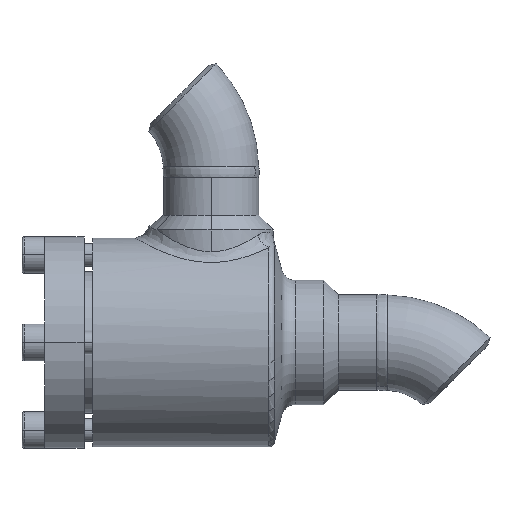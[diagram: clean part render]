
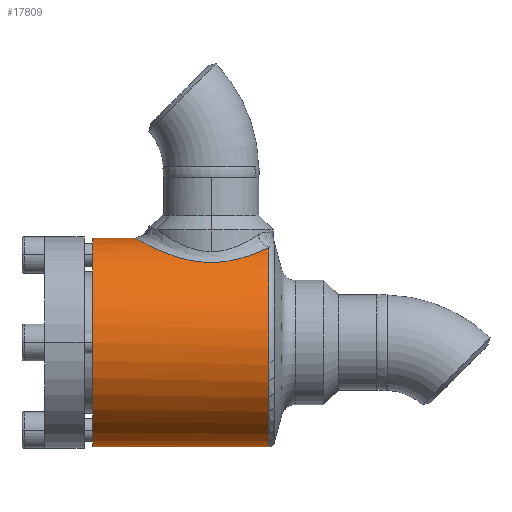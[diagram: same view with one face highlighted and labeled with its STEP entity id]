
A CAD part, left-side view. The second image highlights one B-rep face of the part: STEP entity #17809.
In plain terms, the highlighted cylindrical face has radius 37 mm (diameter 74 mm), a partial arc.
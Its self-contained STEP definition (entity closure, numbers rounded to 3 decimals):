
#17246 = VERTEX_POINT ( 'NONE', #24742 ) ;
#17375 = EDGE_LOOP ( 'NONE', ( #16154, #15222, #13101, #11579, #10647 ) ) ;
#17809 = ADVANCED_FACE ( 'NONE', ( #25846 ), #25847, .T. ) ;
#1489 = CARTESIAN_POINT ( 'NONE',  ( -15.535, -62.446, 33.581 ) ) ;
#17971 = CARTESIAN_POINT ( 'NONE',  ( 0., -15., 37. ) ) ;
#18260 = LINE ( 'NONE', #18261, #18262 ) ;
#18261 = CARTESIAN_POINT ( 'NONE',  ( 0., -68., 37. ) ) ;
#18262 = VECTOR ( 'NONE', #18263, 1000. ) ;
#18263 = DIRECTION ( 'NONE',  ( 0., 1., 0. ) ) ;
#19982 = CARTESIAN_POINT ( 'NONE',  ( 0., 0., -37. ) ) ;
#20162 = LINE ( 'NONE', #20163, #20166 ) ;
#20163 = CARTESIAN_POINT ( 'NONE',  ( 0., -68., -37. ) ) ;
#20166 = VECTOR ( 'NONE', #20167, 1000. ) ;
#20167 = DIRECTION ( 'NONE',  ( 0., 1., 0. ) ) ;
#20731 = B_SPLINE_CURVE_WITH_KNOTS ( 'NONE', 3,
 ( #20735, #20736, #20737, #20738, #20739, #20740, #20741, #20742, #20743, #20744, #20745, #20746, #20747, #20748, #20749, #20750, #20756, #20757, #20758, #20759, #20760, #20761, #20762, #20763, #20764, #20765, #20766, #20767, #20768, #20769, #20770, #20771, #20772, #20773, #20774, #20775, #20776, #20777, #20778, #20779, #20780, #20781, #20782, #20783, #20784, #20785, #20786, #20787 ),
 .UNSPECIFIED., .F., .F.,
 ( 4, 2, 2, 2, 2, 2, 2, 2, 2, 2, 2, 2, 2, 2, 2, 2, 2, 2, 2, 2, 2, 2, 2, 4 ),
 ( 0., 0.004, 0.008, 0.01, 0.012, 0.016, 0.018, 0.02, 0.024, 0.026, 0.028, 0.03, 0.032, 0.036, 0.04, 0.042, 0.044, 0.048, 0.05, 0.052, 0.056, 0.058, 0.06, 0.064 ),
 .UNSPECIFIED. ) ;
#20735 = CARTESIAN_POINT ( 'NONE',  ( -15.535, -62.446, 33.581 ) ) ;
#20736 = CARTESIAN_POINT ( 'NONE',  ( -16.452, -61.548, 33.157 ) ) ;
#20737 = CARTESIAN_POINT ( 'NONE',  ( -17.286, -60.594, 32.725 ) ) ;
#20738 = CARTESIAN_POINT ( 'NONE',  ( -18.811, -58.577, 31.873 ) ) ;
#20739 = CARTESIAN_POINT ( 'NONE',  ( -19.502, -57.514, 31.452 ) ) ;
#20740 = CARTESIAN_POINT ( 'NONE',  ( -20.434, -55.835, 30.848 ) ) ;
#20741 = CARTESIAN_POINT ( 'NONE',  ( -20.728, -55.259, 30.65 ) ) ;
#20742 = CARTESIAN_POINT ( 'NONE',  ( -21.277, -54.088, 30.272 ) ) ;
#20743 = CARTESIAN_POINT ( 'NONE',  ( -21.531, -53.494, 30.092 ) ) ;
#20744 = CARTESIAN_POINT ( 'NONE',  ( -22.233, -51.685, 29.581 ) ) ;
#20745 = CARTESIAN_POINT ( 'NONE',  ( -22.624, -50.442, 29.28 ) ) ;
#20746 = CARTESIAN_POINT ( 'NONE',  ( -23.09, -48.518, 28.912 ) ) ;
#20747 = CARTESIAN_POINT ( 'NONE',  ( -23.225, -47.864, 28.803 ) ) ;
#20748 = CARTESIAN_POINT ( 'NONE',  ( -23.453, -46.548, 28.618 ) ) ;
#20749 = CARTESIAN_POINT ( 'NONE',  ( -23.545, -45.887, 28.542 ) ) ;
#20750 = CARTESIAN_POINT ( 'NONE',  ( -23.756, -43.897, 28.367 ) ) ;
#20756 = CARTESIAN_POINT ( 'NONE',  ( -23.81, -42.56, 28.321 ) ) ;
#20757 = CARTESIAN_POINT ( 'NONE',  ( -23.758, -40.538, 28.365 ) ) ;
#20758 = CARTESIAN_POINT ( 'NONE',  ( -23.718, -39.862, 28.398 ) ) ;
#20759 = CARTESIAN_POINT ( 'NONE',  ( -23.596, -38.528, 28.5 ) ) ;
#20760 = CARTESIAN_POINT ( 'NONE',  ( -23.513, -37.867, 28.569 ) ) ;
#20761 = CARTESIAN_POINT ( 'NONE',  ( -23.304, -36.555, 28.739 ) ) ;
#20762 = CARTESIAN_POINT ( 'NONE',  ( -23.179, -35.905, 28.84 ) ) ;
#20763 = CARTESIAN_POINT ( 'NONE',  ( -22.886, -34.615, 29.073 ) ) ;
#20764 = CARTESIAN_POINT ( 'NONE',  ( -22.718, -33.974, 29.205 ) ) ;
#20765 = CARTESIAN_POINT ( 'NONE',  ( -22.153, -32.08, 29.639 ) ) ;
#20766 = CARTESIAN_POINT ( 'NONE',  ( -21.7, -30.866, 29.975 ) ) ;
#20767 = CARTESIAN_POINT ( 'NONE',  ( -20.645, -28.526, 30.712 ) ) ;
#20768 = CARTESIAN_POINT ( 'NONE',  ( -20.043, -27.4, 31.112 ) ) ;
#20769 = CARTESIAN_POINT ( 'NONE',  ( -19.02, -25.773, 31.74 ) ) ;
#20770 = CARTESIAN_POINT ( 'NONE',  ( -18.66, -25.243, 31.953 ) ) ;
#20771 = CARTESIAN_POINT ( 'NONE',  ( -17.908, -24.217, 32.381 ) ) ;
#20772 = CARTESIAN_POINT ( 'NONE',  ( -17.515, -23.72, 32.595 ) ) ;
#20773 = CARTESIAN_POINT ( 'NONE',  ( -16.284, -22.274, 33.237 ) ) ;
#20774 = CARTESIAN_POINT ( 'NONE',  ( -15.395, -21.372, 33.662 ) ) ;
#20775 = CARTESIAN_POINT ( 'NONE',  ( -13.943, -20.115, 34.276 ) ) ;
#20776 = CARTESIAN_POINT ( 'NONE',  ( -13.437, -19.71, 34.478 ) ) ;
#20777 = CARTESIAN_POINT ( 'NONE',  ( -12.398, -18.947, 34.865 ) ) ;
#20778 = CARTESIAN_POINT ( 'NONE',  ( -11.864, -18.588, 35.051 ) ) ;
#20779 = CARTESIAN_POINT ( 'NONE',  ( -10.215, -17.575, 35.581 ) ) ;
#20780 = CARTESIAN_POINT ( 'NONE',  ( -9.054, -16.989, 35.897 ) ) ;
#20781 = CARTESIAN_POINT ( 'NONE',  ( -7.207, -16.258, 36.297 ) ) ;
#20782 = CARTESIAN_POINT ( 'NONE',  ( -6.575, -16.041, 36.417 ) ) ;
#20783 = CARTESIAN_POINT ( 'NONE',  ( -5.29, -15.666, 36.626 ) ) ;
#20784 = CARTESIAN_POINT ( 'NONE',  ( -4.64, -15.508, 36.714 ) ) ;
#20785 = CARTESIAN_POINT ( 'NONE',  ( -2.677, -15.129, 36.926 ) ) ;
#20786 = CARTESIAN_POINT ( 'NONE',  ( -1.349, -15., 37. ) ) ;
#20787 = CARTESIAN_POINT ( 'NONE',  ( 0., -15., 37. ) ) ;
#21844 = VERTEX_POINT ( 'NONE', #17971 ) ;
#22052 = EDGE_CURVE ( 'NONE', #21844, #22870, #18260, .T. ) ;
#22870 = VERTEX_POINT ( 'NONE', #25800 ) ;
#23897 = VERTEX_POINT ( 'NONE', #19982 ) ;
#24106 = EDGE_CURVE ( 'NONE', #17246, #23897, #20162, .T. ) ;
#24742 = CARTESIAN_POINT ( 'NONE',  ( 0., -62.446, -37. ) ) ;
#9415 = CIRCLE ( 'NONE', #9434, 37. ) ;
#25800 = CARTESIAN_POINT ( 'NONE',  ( 0., 0., 37. ) ) ;
#9434 = AXIS2_PLACEMENT_3D ( 'NONE', #9435, #9436, #9437 ) ;
#9435 = CARTESIAN_POINT ( 'NONE',  ( 0., -62.446, 0. ) ) ;
#9436 = DIRECTION ( 'NONE',  ( 0., 1., 0. ) ) ;
#9437 = DIRECTION ( 'NONE',  ( 0., 0., -1. ) ) ;
#25846 = FACE_OUTER_BOUND ( 'NONE', #17375, .T. ) ;
#25847 = CYLINDRICAL_SURFACE ( 'NONE', #25848, 37. ) ;
#25848 = AXIS2_PLACEMENT_3D ( 'NONE', #25865, #25866, #25867 ) ;
#25865 = CARTESIAN_POINT ( 'NONE',  ( 0., -68., 0. ) ) ;
#25866 = DIRECTION ( 'NONE',  ( 0., 1., 0. ) ) ;
#25867 = DIRECTION ( 'NONE',  ( 0., 0., 1. ) ) ;
#9979 = EDGE_CURVE ( 'NONE', #23897, #22870, #12481, .T. ) ;
#10647 = ORIENTED_EDGE ( 'NONE', *, *, #9979, .F. ) ;
#11579 = ORIENTED_EDGE ( 'NONE', *, *, #22052, .T. ) ;
#12481 = CIRCLE ( 'NONE', #12482, 37. ) ;
#12482 = AXIS2_PLACEMENT_3D ( 'NONE', #12483, #12484, #12485 ) ;
#12483 = CARTESIAN_POINT ( 'NONE',  ( 0., 0., 0. ) ) ;
#12484 = DIRECTION ( 'NONE',  ( 0., 1., 0. ) ) ;
#12485 = DIRECTION ( 'NONE',  ( 0., 0., 1. ) ) ;
#12508 = EDGE_CURVE ( 'NONE', #14164, #21844, #20731, .T. ) ;
#13101 = ORIENTED_EDGE ( 'NONE', *, *, #12508, .T. ) ;
#14164 = VERTEX_POINT ( 'NONE', #1489 ) ;
#14561 = EDGE_CURVE ( 'NONE', #17246, #14164, #9415, .T. ) ;
#15222 = ORIENTED_EDGE ( 'NONE', *, *, #14561, .T. ) ;
#16154 = ORIENTED_EDGE ( 'NONE', *, *, #24106, .F. ) ;
